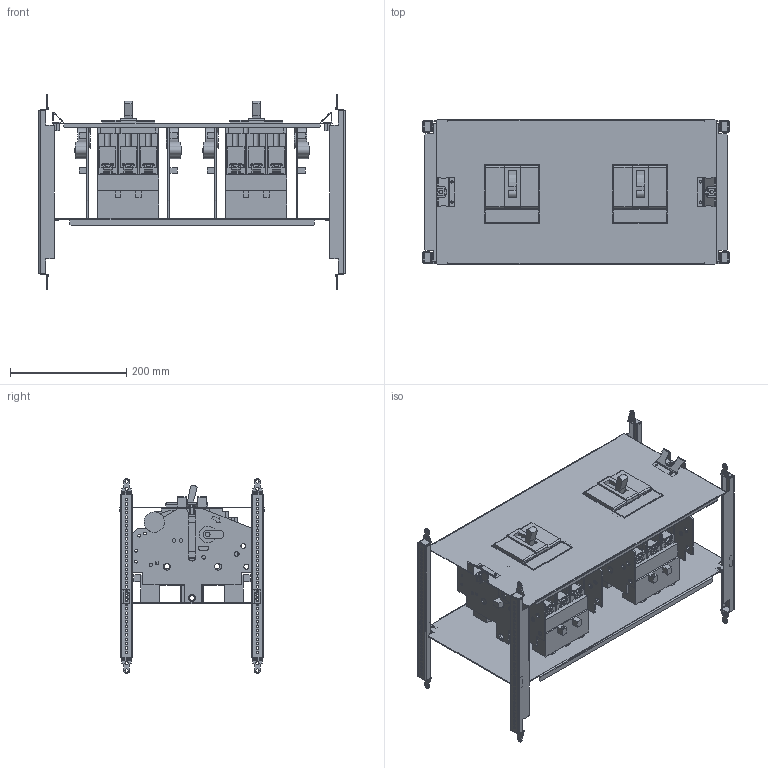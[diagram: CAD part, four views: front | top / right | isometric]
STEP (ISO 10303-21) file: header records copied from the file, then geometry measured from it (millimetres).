
FILE_DESCRIPTION(('CAx-IF Rec.Pracs.---Model Styling and Organization---1.2---2011-12-15','CAx-IF Rec.Pracs.---Geometric and Assembly Validation Properties---4.1---2014-06-16','CAx-IF Rec.Pracs.---PMI Polyline Presentation---2.0---2013-05-24'),'2;1');
FILE_NAME('R5PKIB7V61913 (W).stp','2021-07-29T03:10:34+03:00',(''),(''),'STEP Interface 4.4 by CT CoreTechnologie','3D_Evolution4.4 by CT CoreTechnologie','');
FILE_SCHEMA(('AUTOMOTIVE_DESIGN { 1 0 10303 214 1 1 1 1 }'));
Length unit declared in the file: millimetre
Products named in the file (1): R5PKIB7V61913 (W)
Bounding box: 526 x 248 x 335 mm (x, y, z)
Surface area: 1418654.1 mm2 (no closed solid volume)
Topology: 0 solids, 78 shells, 3304 faces, 9622 edges, 6508 vertices
Faces by surface type: plane 2280, cylinder 922, bspline 102
Entity records: 111102 total; most frequent: CARTESIAN_POINT 20787, ORIENTED_EDGE 19208, DIRECTION 17974, EDGE_CURVE 9610, VECTOR 7576, LINE 7576, VERTEX_POINT 6544, AXIS2_PLACEMENT_3D 5199
